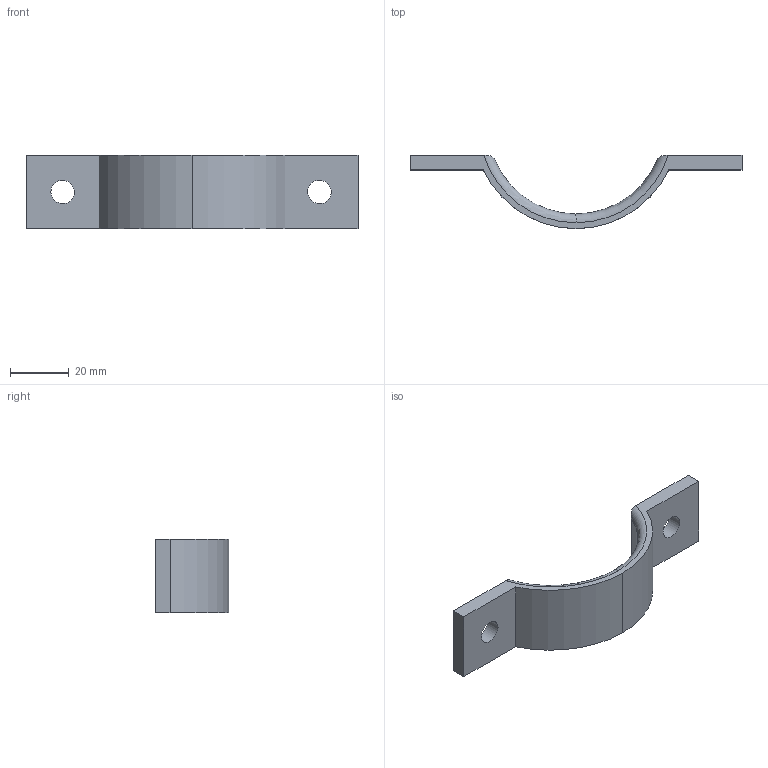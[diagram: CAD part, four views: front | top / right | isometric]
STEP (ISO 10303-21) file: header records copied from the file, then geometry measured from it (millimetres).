
FILE_DESCRIPTION(('CATIA V5 STEP Exchange'),'2;1');
FILE_NAME('C:\Users\user\SkyDrive\Stuff\cad\Instructables\Hand adapter\CATIA V5, STEP ,IGES Files\Clamp.stp','2017-01-13T13:23:19+00:00',('none'),('none'),'CATIA Version 5 Release 20 GA (IN-10)','CATIA V5 STEP AP203','none');
FILE_SCHEMA(('CONFIG_CONTROL_DESIGN'));
Length unit declared in the file: millimetre
Products named in the file (1): Adapter
Bounding box: 113.25 x 25 x 25 mm (x, y, z)
Volume: 15385.3 mm3; surface area: 7867 mm2
Topology: 1 solids, 1 shells, 24 faces, 64 edges, 42 vertices
Faces by surface type: cylinder 10, plane 10, torus 4
Entity records: 786 total; most frequent: CARTESIAN_POINT 183, ORIENTED_EDGE 128, DIRECTION 88, EDGE_CURVE 64, VERTEX_POINT 42, AXIS2_PLACEMENT_3D 39, VECTOR 34, LINE 34
